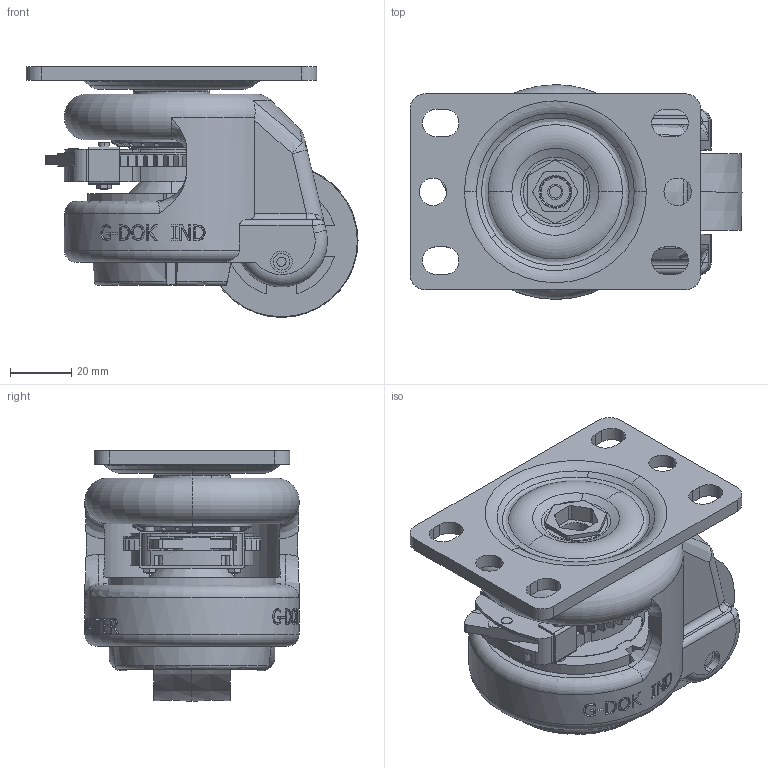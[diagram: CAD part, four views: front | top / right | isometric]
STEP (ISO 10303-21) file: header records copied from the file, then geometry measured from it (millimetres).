
FILE_DESCRIPTION((''),'2;1');
FILE_NAME('GDR-60F-US.stp','2014-12-08T11:39:36',(''),(''),'Mechanical Desktop 2009','Mechanical Desktop 2009',', , ');
FILE_SCHEMA(('CONFIG_CONTROL_DESIGN'));
Length unit declared in the file: millimetre
Products named in the file (15): DRAWING22; ABSR; ABSR1; ABSR2; ABSR3; ABSR4; ABSR5; ABSR6; ABSR7; ABSR8; ABSR9; ABSR10; ABSR11; ABSR12; ABSR13
Assembly tree (14 placements, depth 2):
  DRAWING22
    ABSR
    ABSR1
    ABSR2
    ABSR3
    ABSR4
    ABSR5
    ABSR6
    ABSR7
    ABSR8
    ABSR9
    ABSR10
    ABSR11
    ABSR12
    ABSR13
Bounding box: 108.5 x 70 x 82 mm (x, y, z)
Volume: 239494.1 mm3; surface area: 80128.3 mm2
Topology: 15 solids, 15 shells, 1443 faces, 3966 edges, 2621 vertices
Faces by surface type: plane 748, cylinder 369, bspline 212, cone 68, torus 37, sphere 9
Entity records: 74210 total; most frequent: CARTESIAN_POINT 37641, ORIENTED_EDGE 7898, DIRECTION 7237, EDGE_CURVE 3949, VERTEX_POINT 2618, AXIS2_PLACEMENT_3D 2612, VECTOR 2013, LINE 2013
